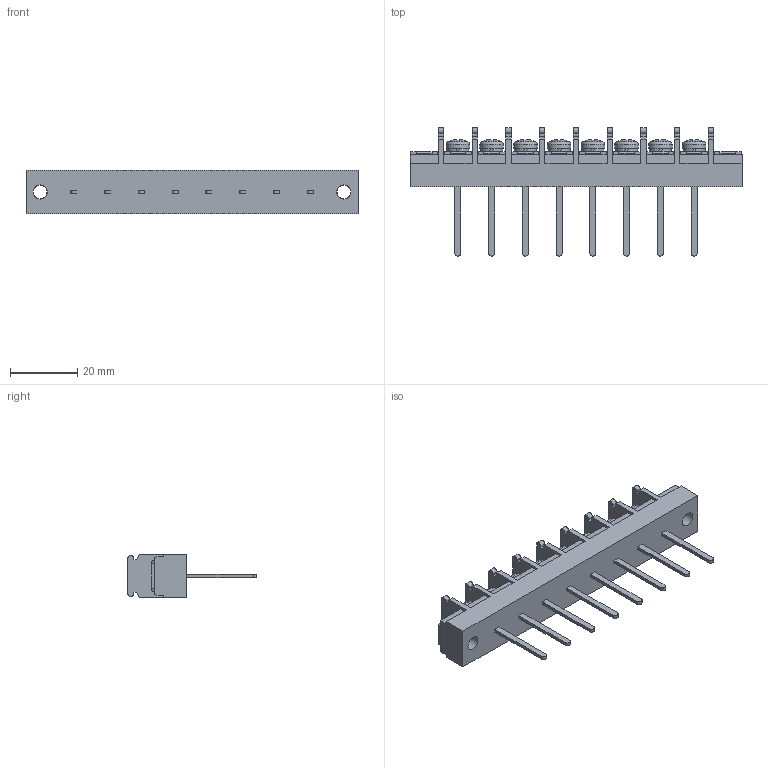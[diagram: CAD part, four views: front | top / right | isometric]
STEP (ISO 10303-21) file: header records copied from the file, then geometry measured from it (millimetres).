
FILE_DESCRIPTION(/* description */ ('Alibre Inc.'),/* implementation_level */ '2;1');
FILE_NAME(/* name */ 'export0',/* time_stamp */ '2015-10-17T19:33:47+09:00',/* author */ (''),/* organization */ (''),/* preprocessor_version */ 'ST-DEVELOPER v14',/* originating_system */ 'Alibre',/* authorisation */ '');
FILE_SCHEMA (('CONFIG_CONTROL_DESIGN'));
Length unit declared in the file: centimetre
Products named in the file (1): ID_1
Bounding box: 98.4 x 38 x 13 mm (x, y, z)
Volume: 14680.6 mm3; surface area: 9127.5 mm2
Topology: 1 solids, 17 shells, 944 faces, 2564 edges, 1702 vertices
Faces by surface type: plane 710, bspline 104, cylinder 74, cone 32, torus 16, sphere 8
Full cylindrical faces by diameter (mm): 4 x10, 4.2 x2, 6.5 x8, 7 x8
Entity records: 28758 total; most frequent: CARTESIAN_POINT 6318, ORIENTED_EDGE 5004, DIRECTION 3586, EDGE_CURVE 2502, VECTOR 1856, LINE 1856, VERTEX_POINT 1676, AXIS2_PLACEMENT_3D 1218
